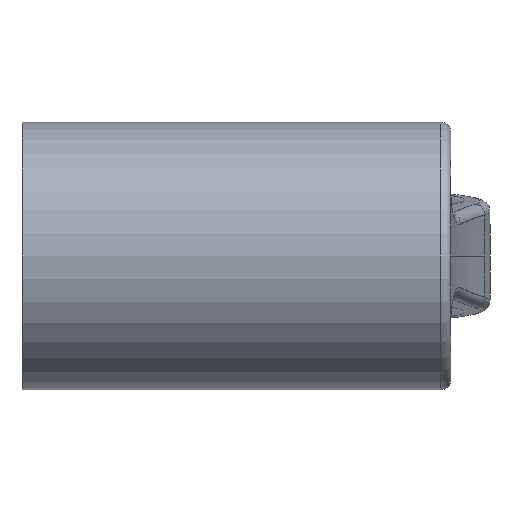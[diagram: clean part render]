
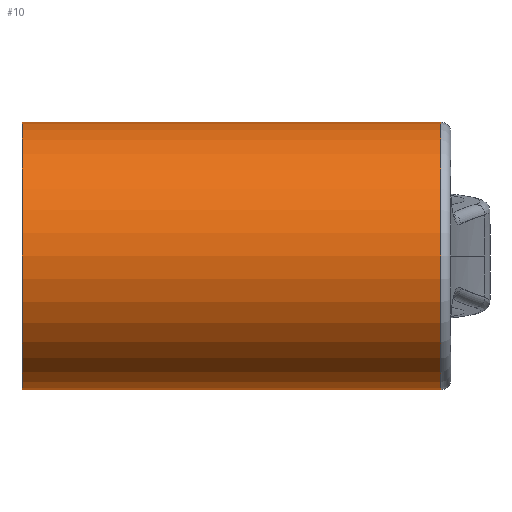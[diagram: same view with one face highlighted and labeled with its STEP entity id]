
A CAD part, front view. The second image highlights one B-rep face of the part: STEP entity #10.
In plain terms, the highlighted cylindrical face has radius 8 mm (diameter 16 mm), a partial arc.
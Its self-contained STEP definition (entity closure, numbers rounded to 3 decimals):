
#10 = ADVANCED_FACE ( 'NONE', ( #50 ), #1064, .T. ) ;
#50 = FACE_OUTER_BOUND ( 'NONE', #699, .T. ) ;
#112 = CARTESIAN_POINT ( 'NONE',  ( 25.049, 0., 8. ) ) ;
#132 = LINE ( 'NONE', #661, #248 ) ;
#188 = DIRECTION ( 'NONE',  ( -1., 0., 0. ) ) ;
#227 = EDGE_CURVE ( 'NONE', #1823, #1895, #487, .T. ) ;
#248 = VECTOR ( 'NONE', #1307, 1000. ) ;
#278 = CIRCLE ( 'NONE', #595, 8. ) ;
#487 = LINE ( 'NONE', #683, #965 ) ;
#579 = CARTESIAN_POINT ( 'NONE',  ( 0., 0., 8. ) ) ;
#595 = AXIS2_PLACEMENT_3D ( 'NONE', #838, #188, #1343 ) ;
#629 = VERTEX_POINT ( 'NONE', #579 ) ;
#661 = CARTESIAN_POINT ( 'NONE',  ( 0., 0., 8. ) ) ;
#683 = CARTESIAN_POINT ( 'NONE',  ( 0., 0., -8. ) ) ;
#699 = EDGE_LOOP ( 'NONE', ( #1875, #2058, #1568, #771 ) ) ;
#728 = EDGE_CURVE ( 'NONE', #1823, #1535, #278, .T. ) ;
#736 = EDGE_CURVE ( 'NONE', #1895, #629, #1614, .T. ) ;
#771 = ORIENTED_EDGE ( 'NONE', *, *, #736, .F. ) ;
#838 = CARTESIAN_POINT ( 'NONE',  ( 25.049, 0., 0. ) ) ;
#900 = DIRECTION ( 'NONE',  ( 0., 0., 1. ) ) ;
#930 = AXIS2_PLACEMENT_3D ( 'NONE', #1236, #1904, #900 ) ;
#965 = VECTOR ( 'NONE', #1212, 1000. ) ;
#1008 = DIRECTION ( 'NONE',  ( -1., 0., 0. ) ) ;
#1064 = CYLINDRICAL_SURFACE ( 'NONE', #930, 8. ) ;
#1198 = AXIS2_PLACEMENT_3D ( 'NONE', #1860, #1008, #2017 ) ;
#1212 = DIRECTION ( 'NONE',  ( -1., 0., 0. ) ) ;
#1236 = CARTESIAN_POINT ( 'NONE',  ( 0., 0., 0. ) ) ;
#1307 = DIRECTION ( 'NONE',  ( -1., 0., 0. ) ) ;
#1343 = DIRECTION ( 'NONE',  ( 0., 0., -1. ) ) ;
#1423 = CARTESIAN_POINT ( 'NONE',  ( 0., 0., -8. ) ) ;
#1535 = VERTEX_POINT ( 'NONE', #112 ) ;
#1564 = CARTESIAN_POINT ( 'NONE',  ( 25.049, 0., -8. ) ) ;
#1568 = ORIENTED_EDGE ( 'NONE', *, *, #1609, .T. ) ;
#1609 = EDGE_CURVE ( 'NONE', #1535, #629, #132, .T. ) ;
#1614 = CIRCLE ( 'NONE', #1198, 8. ) ;
#1823 = VERTEX_POINT ( 'NONE', #1564 ) ;
#1860 = CARTESIAN_POINT ( 'NONE',  ( 0., 0., 0. ) ) ;
#1875 = ORIENTED_EDGE ( 'NONE', *, *, #227, .F. ) ;
#1895 = VERTEX_POINT ( 'NONE', #1423 ) ;
#1904 = DIRECTION ( 'NONE',  ( -1., 0., 0. ) ) ;
#2017 = DIRECTION ( 'NONE',  ( 0., 0., 1. ) ) ;
#2058 = ORIENTED_EDGE ( 'NONE', *, *, #728, .T. ) ;
